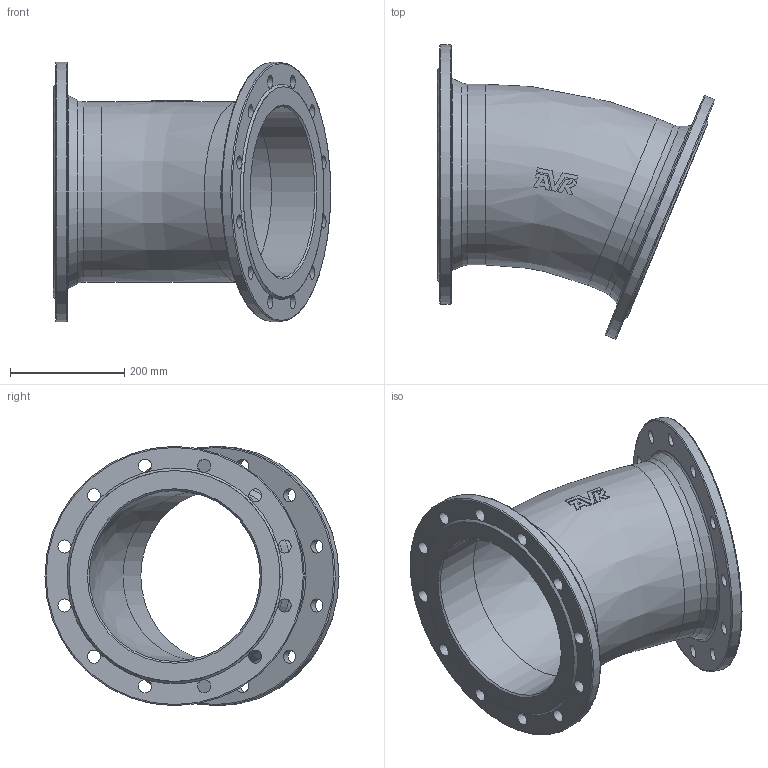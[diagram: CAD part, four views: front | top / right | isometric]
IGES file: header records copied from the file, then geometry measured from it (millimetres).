
Start section: SolidWorks IGES file using analytic representation for surfaces
Global section: file name: \\avksan2\techshare\PBM outline export from Enovia\O_712_0210_DN300_0X_REV01.igs; native system: SolidWorks 2022; preprocessor: SolidWorks 2022; author: pbm; date: 240815.141506; units: millimetre
Bounding box: 486.7 x 515.9 x 455 mm (x, y, z)
Surface area: 1163118.4 mm2 (no closed solid volume)
Topology: 0 solids, 0 shells, 93 faces, 545 edges, 499 vertices
Faces by surface type: revolution 52, bspline 41
